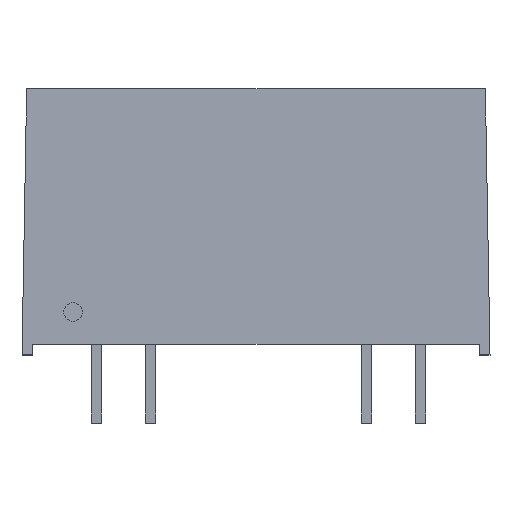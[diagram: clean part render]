
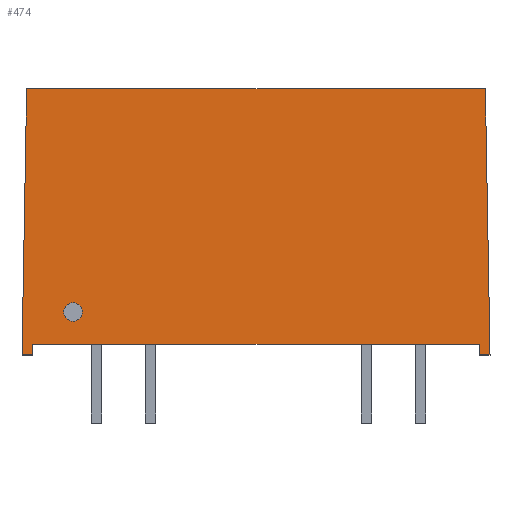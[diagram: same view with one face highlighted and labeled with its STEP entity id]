
A CAD part, top view. The second image highlights one B-rep face of the part: STEP entity #474.
In plain terms, the highlighted planar face has unit normal (0, 0.018, 1).
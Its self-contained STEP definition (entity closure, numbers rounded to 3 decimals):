
#18 = CARTESIAN_POINT ( 'NONE',  ( -10.5, 0., 3.75 ) ) ;
#29 = EDGE_CURVE ( 'NONE', #78, #463, #863, .T. ) ;
#30 = EDGE_LOOP ( 'NONE', ( #567, #784 ) ) ;
#64 = ORIENTED_EDGE ( 'NONE', *, *, #804, .T. ) ;
#74 = AXIS2_PLACEMENT_3D ( 'NONE', #809, #971, #884 ) ;
#78 = VERTEX_POINT ( 'NONE', #297 ) ;
#82 = VERTEX_POINT ( 'NONE', #597 ) ;
#85 = VERTEX_POINT ( 'NONE', #900 ) ;
#104 = CARTESIAN_POINT ( 'NONE',  ( 10.998, 0.131, 3.748 ) ) ;
#129 = CARTESIAN_POINT ( 'NONE',  ( -8.6, 2.446, 3.707 ) ) ;
#140 = LINE ( 'NONE', #497, #489 ) ;
#144 = CIRCLE ( 'NONE', #262, 0.433 ) ;
#160 = DIRECTION ( 'NONE',  ( 1., 0., 0. ) ) ;
#179 = VERTEX_POINT ( 'NONE', #320 ) ;
#186 = CARTESIAN_POINT ( 'NONE',  ( 10.5, 0., 3.75 ) ) ;
#190 = EDGE_CURVE ( 'NONE', #298, #235, #924, .T. ) ;
#204 = DIRECTION ( 'NONE',  ( 0., 1., -0.017 ) ) ;
#233 = DIRECTION ( 'NONE',  ( 0., 0.017, 1. ) ) ;
#235 = VERTEX_POINT ( 'NONE', #18 ) ;
#262 = AXIS2_PLACEMENT_3D ( 'NONE', #937, #565, #707 ) ;
#274 = EDGE_CURVE ( 'NONE', #179, #298, #616, .T. ) ;
#277 = ORIENTED_EDGE ( 'NONE', *, *, #274, .T. ) ;
#280 = LINE ( 'NONE', #285, #427 ) ;
#285 = CARTESIAN_POINT ( 'NONE',  ( -11., 0., 3.75 ) ) ;
#288 = EDGE_LOOP ( 'NONE', ( #692, #558, #421, #687, #669, #277, #534, #64 ) ) ;
#297 = CARTESIAN_POINT ( 'NONE',  ( 10.782, 12.5, 3.532 ) ) ;
#298 = VERTEX_POINT ( 'NONE', #792 ) ;
#312 = CARTESIAN_POINT ( 'NONE',  ( -10.5, 0.5, 3.741 ) ) ;
#318 = EDGE_CURVE ( 'NONE', #85, #892, #144, .T. ) ;
#320 = CARTESIAN_POINT ( 'NONE',  ( -10.782, 12.5, 3.532 ) ) ;
#363 = CARTESIAN_POINT ( 'NONE',  ( 11., 0., 3.75 ) ) ;
#396 = DIRECTION ( 'NONE',  ( 0.017, -1., 0.017 ) ) ;
#400 = VECTOR ( 'NONE', #204, 1000. ) ;
#413 = AXIS2_PLACEMENT_3D ( 'NONE', #782, #233, #449 ) ;
#421 = ORIENTED_EDGE ( 'NONE', *, *, #885, .T. ) ;
#423 = DIRECTION ( 'NONE',  ( 0., -1., 0.017 ) ) ;
#427 = VECTOR ( 'NONE', #800, 1000. ) ;
#449 = DIRECTION ( 'NONE',  ( 0., -1., 0.017 ) ) ;
#453 = DIRECTION ( 'NONE',  ( 1., 0., 0. ) ) ;
#460 = LINE ( 'NONE', #838, #638 ) ;
#463 = VERTEX_POINT ( 'NONE', #363 ) ;
#472 = EDGE_CURVE ( 'NONE', #82, #748, #881, .T. ) ;
#474 = ADVANCED_FACE ( 'NONE', ( #899, #498 ), #979, .T. ) ;
#489 = VECTOR ( 'NONE', #660, 1000. ) ;
#495 = VECTOR ( 'NONE', #396, 1000. ) ;
#497 = CARTESIAN_POINT ( 'NONE',  ( -11., 12.5, 3.532 ) ) ;
#498 = FACE_OUTER_BOUND ( 'NONE', #288, .T. ) ;
#504 = VERTEX_POINT ( 'NONE', #312 ) ;
#534 = ORIENTED_EDGE ( 'NONE', *, *, #190, .T. ) ;
#549 = VECTOR ( 'NONE', #160, 1000. ) ;
#558 = ORIENTED_EDGE ( 'NONE', *, *, #472, .T. ) ;
#565 = DIRECTION ( 'NONE',  ( 0., 0.017, 1. ) ) ;
#567 = ORIENTED_EDGE ( 'NONE', *, *, #318, .F. ) ;
#589 = EDGE_CURVE ( 'NONE', #892, #85, #852, .T. ) ;
#597 = CARTESIAN_POINT ( 'NONE',  ( 10.5, 0.5, 3.741 ) ) ;
#616 = LINE ( 'NONE', #630, #914 ) ;
#630 = CARTESIAN_POINT ( 'NONE',  ( -11., 0., 3.75 ) ) ;
#638 = VECTOR ( 'NONE', #453, 1000. ) ;
#660 = DIRECTION ( 'NONE',  ( 1., 0., 0. ) ) ;
#666 = CARTESIAN_POINT ( 'NONE',  ( 10.5, 0., 3.75 ) ) ;
#669 = ORIENTED_EDGE ( 'NONE', *, *, #781, .F. ) ;
#687 = ORIENTED_EDGE ( 'NONE', *, *, #29, .F. ) ;
#692 = ORIENTED_EDGE ( 'NONE', *, *, #941, .T. ) ;
#703 = CARTESIAN_POINT ( 'NONE',  ( -11., 0., 3.75 ) ) ;
#707 = DIRECTION ( 'NONE',  ( 0., -1., 0.017 ) ) ;
#748 = VERTEX_POINT ( 'NONE', #186 ) ;
#781 = EDGE_CURVE ( 'NONE', #179, #78, #140, .T. ) ;
#782 = CARTESIAN_POINT ( 'NONE',  ( -8.6, 2.013, 3.715 ) ) ;
#784 = ORIENTED_EDGE ( 'NONE', *, *, #589, .F. ) ;
#792 = CARTESIAN_POINT ( 'NONE',  ( -11., 0., 3.75 ) ) ;
#800 = DIRECTION ( 'NONE',  ( 1., 0., 0. ) ) ;
#801 = VECTOR ( 'NONE', #423, 1000. ) ;
#804 = EDGE_CURVE ( 'NONE', #235, #504, #880, .T. ) ;
#809 = CARTESIAN_POINT ( 'NONE',  ( -11., 0., 3.75 ) ) ;
#835 = DIRECTION ( 'NONE',  ( -0.017, -1., 0.017 ) ) ;
#838 = CARTESIAN_POINT ( 'NONE',  ( -11., 0.5, 3.741 ) ) ;
#852 = CIRCLE ( 'NONE', #413, 0.433 ) ;
#863 = LINE ( 'NONE', #104, #495 ) ;
#880 = LINE ( 'NONE', #970, #400 ) ;
#881 = LINE ( 'NONE', #666, #801 ) ;
#884 = DIRECTION ( 'NONE',  ( 0., -1., 0.017 ) ) ;
#885 = EDGE_CURVE ( 'NONE', #748, #463, #280, .T. ) ;
#892 = VERTEX_POINT ( 'NONE', #129 ) ;
#899 = FACE_BOUND ( 'NONE', #30, .T. ) ;
#900 = CARTESIAN_POINT ( 'NONE',  ( -8.6, 1.579, 3.722 ) ) ;
#914 = VECTOR ( 'NONE', #835, 1000. ) ;
#924 = LINE ( 'NONE', #703, #549 ) ;
#937 = CARTESIAN_POINT ( 'NONE',  ( -8.6, 2.013, 3.715 ) ) ;
#941 = EDGE_CURVE ( 'NONE', #504, #82, #460, .T. ) ;
#970 = CARTESIAN_POINT ( 'NONE',  ( -10.5, 0., 3.75 ) ) ;
#971 = DIRECTION ( 'NONE',  ( 0., 0.017, 1. ) ) ;
#979 = PLANE ( 'NONE',  #74 ) ;
